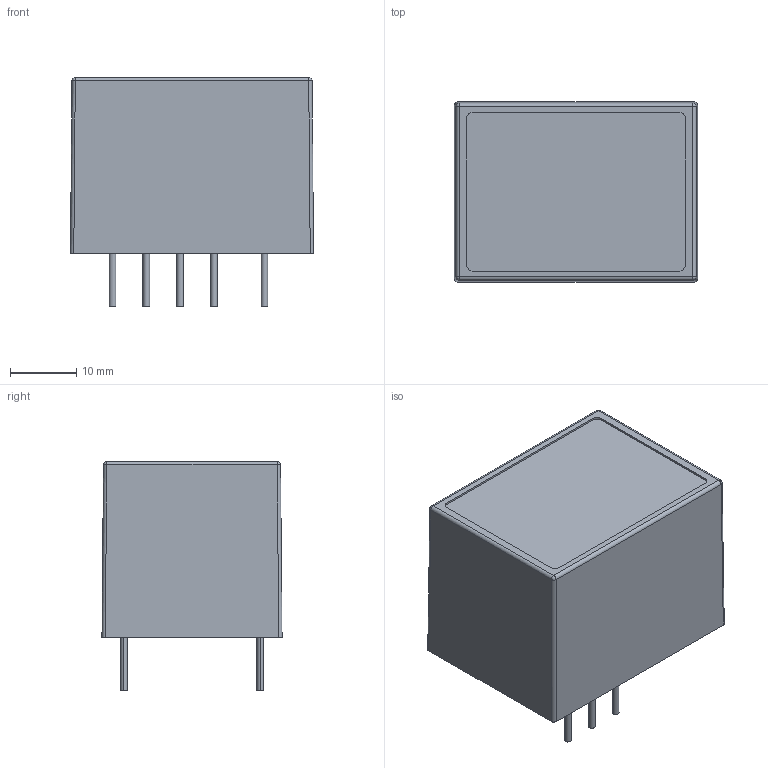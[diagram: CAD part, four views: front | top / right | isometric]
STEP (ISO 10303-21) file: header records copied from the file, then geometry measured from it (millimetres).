
FILE_DESCRIPTION((''),'2;1');
FILE_NAME('ALC_ASM','2016-02-17T',('arch'),(''),'PRO/ENGINEER BY PARAMETRIC TECHNOLOGY CORPORATION, 2008380','PRO/ENGINEER BY PARAMETRIC TECHNOLOGY CORPORATION, 2008380','');
FILE_SCHEMA(('AUTOMOTIVE_DESIGN { 1 2 10303 214 0 1 1 1 }'));
Length unit declared in the file: millimetre
Products named in the file (6): PRODUCT_2731; AOC-3W-2; ASM0001_ASM; _ALC; PIN-1-8; ALC_ASM
Assembly tree (9 placements, depth 3):
  ALC_ASM
    ASM0001_ASM
      PRODUCT_2731
      AOC-3W-2
    _ALC
    PIN-1-8  x5
Bounding box: 36.66 x 27.16 x 34.5 mm (x, y, z)
Volume: 4369.3 mm3; surface area: 10413.2 mm2
Topology: 7 solids, 7 shells, 113 faces, 280 edges, 180 vertices
Faces by surface type: plane 69, cylinder 40, sphere 4
Entity records: 3327 total; most frequent: CARTESIAN_POINT 565, DIRECTION 536, ORIENTED_EDGE 504, EDGE_CURVE 252, VECTOR 188, LINE 188, AXIS2_PLACEMENT_3D 174, VERTEX_POINT 164
